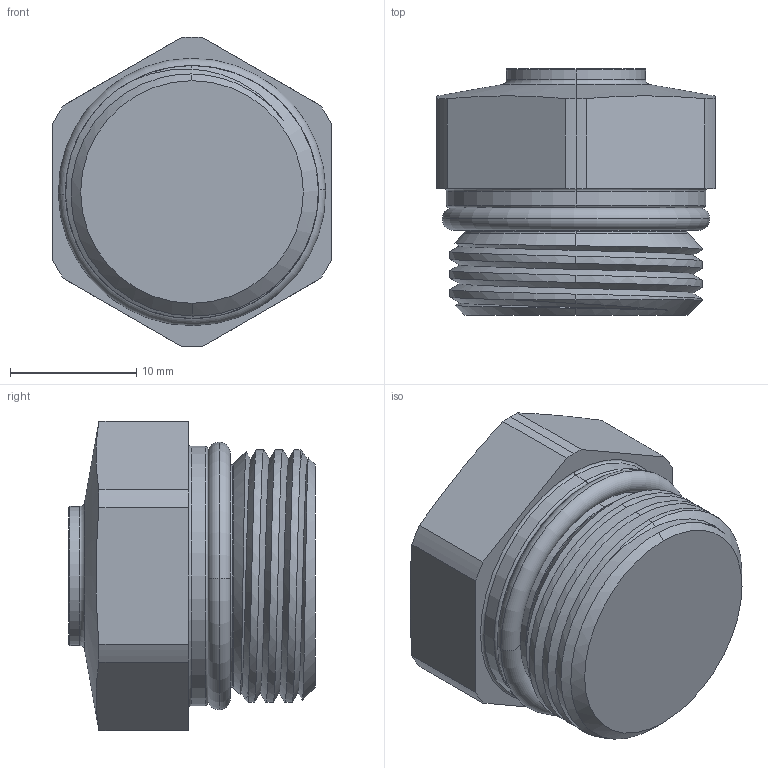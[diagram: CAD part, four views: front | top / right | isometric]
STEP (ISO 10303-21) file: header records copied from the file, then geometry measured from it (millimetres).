
FILE_DESCRIPTION (( 'STEP AP214' ), '1' );
FILE_NAME ('WXL-FLS-20L.STEP', '2019-07-04T03:02:53', ( 'PC' ), ( 'Microsoft' ), 'SwSTEP 2.0', 'SolidWorks 2018', '' );
FILE_SCHEMA (( 'AUTOMOTIVE_DESIGN' ));
Length unit declared in the file: millimetre
Products named in the file (1): WXL-FLS-20L
Bounding box: 22 x 19.5 x 24.5 mm (x, y, z)
Volume: 6400.7 mm3; surface area: 2566.8 mm2
Topology: 2 solids, 2 shells, 59 faces, 139 edges, 85 vertices
Faces by surface type: cylinder 20, torus 16, plane 11, cone 10, bspline 2
Entity records: 3005 total; most frequent: CARTESIAN_POINT 974, DIRECTION 295, ORIENTED_EDGE 278, EDGE_CURVE 139, AXIS2_PLACEMENT_3D 127, VERTEX_POINT 85, CIRCLE 69, UNCERTAINTY_MEASURE_WITH_UNIT 63
